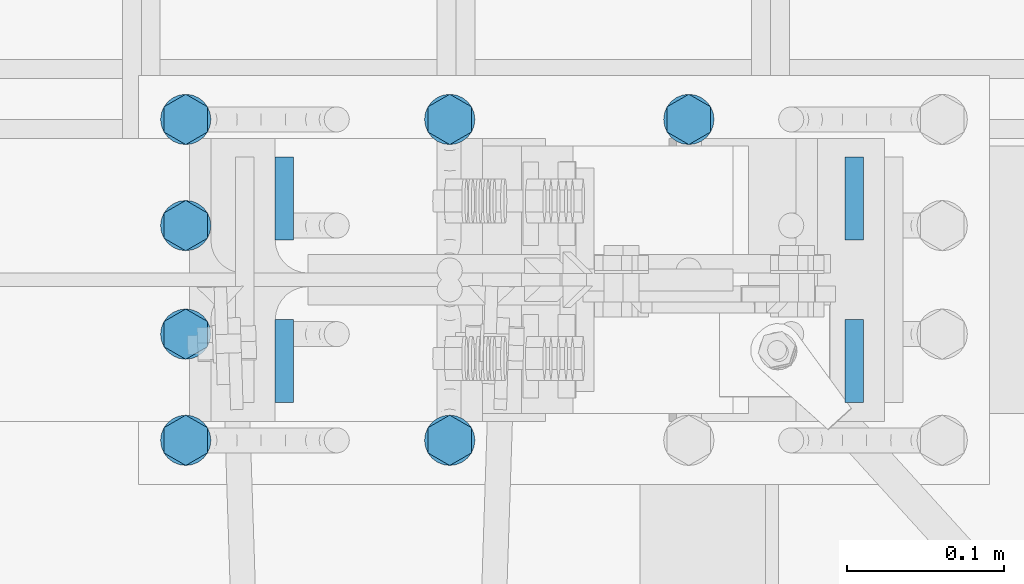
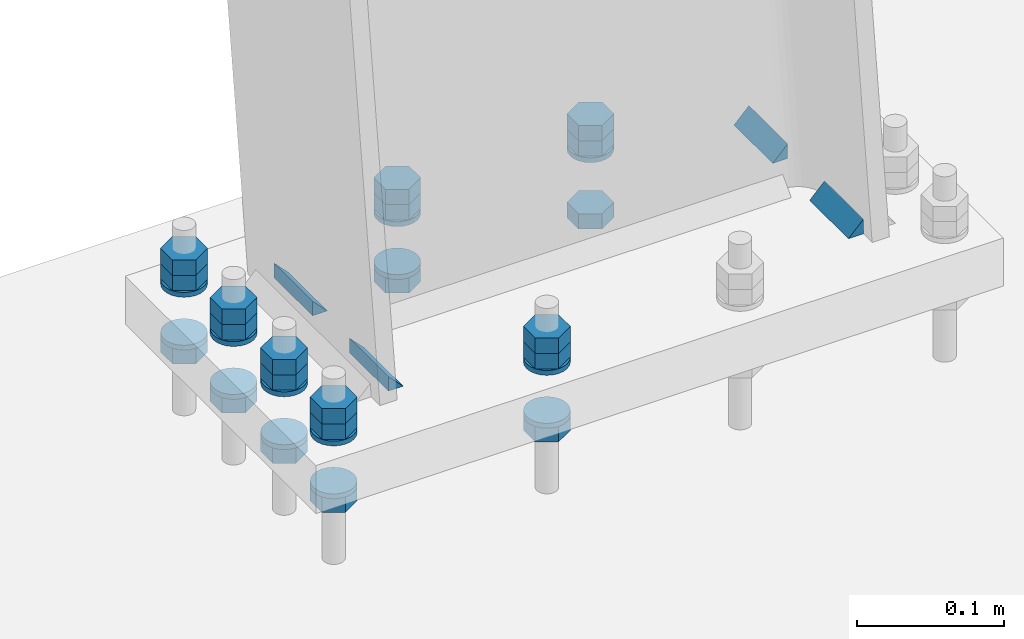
# One storey, part 65 of 72: 34 mechanical fasteners, 8 fasteners.
"""IFC4 building model written with IfcOpenShell, lengths in metres."""

from ifc_helpers import new_model, si_unit, frame, origin_with_axes, place, context, project, spatial, polyline, outline, extrude, type_object, element, save


model = new_model("IFC4")

# Units and contexts
model_context = context("Model", 3, precision=1e-05, world=origin_with_axes())
ifc_project = project(units=[si_unit("LENGTHUNIT", "METRE"), si_unit("AREAUNIT", "SQUARE_METRE"), si_unit("VOLUMEUNIT", "CUBIC_METRE"), si_unit("MASSUNIT", "GRAM", prefix="KILO"), si_unit("TIMEUNIT", "SECOND"), si_unit("PLANEANGLEUNIT", "RADIAN"), si_unit("SOLIDANGLEUNIT", "STERADIAN"), si_unit("THERMODYNAMICTEMPERATUREUNIT", "DEGREE_CELSIUS")], contexts=[model_context])

# Site, building, storey
placement_1 = place(None, origin_with_axes())
site = spatial("IfcSite", under=ifc_project, at=placement_1, Name="Italia", CompositionType="ELEMENT")
building = spatial("IfcBuilding", under=site, at=placement_1, Name="Pensilina", CompositionType="ELEMENT")
storey = spatial("IfcBuildingStorey", under=building, at=placement_1, Name="Storey 0", CompositionType="ELEMENT", Elevation=0.0)

# Fasteners
fastener_type_1 = type_object("IfcFastenerType", Name="Collegamento 0005_-200", PredefinedType="WELD")
placement_2 = place(placement_1, origin_with_axes())
fastener_1_placement = place(placement_2, origin_with_axes())
element("IfcFastener", 1, at=fastener_1_placement, inside=storey, type_object=fastener_type_1, Name="Collegamento 0005_-200", context=model_context, shape_type="SweptSolid", body=[
    extrude(outline(polyline([(0.0, 0.0, 0.0), (0.0118082, 0.0121734, 0.0), (0.0118082, 0.0, 0.0), (0.0, 0.0, 0.0)])), frame((1.10723, 21.0948, 0.103658), z_axis=(0.0, -1.0, 0.0), x_axis=(1.0, 0.0, 0.0)), (0.0, 0.0, 1.0), 0.0528011),
])
fastener_type_2 = type_object("IfcFastenerType", Name="Collegamento 0005_-200", PredefinedType="WELD")
fastener_2_placement = place(placement_2, origin_with_axes())
element("IfcFastener", 2, at=fastener_2_placement, inside=storey, type_object=fastener_type_2, Name="Collegamento 0005_-200", context=model_context, shape_type="SweptSolid", body=[
    extrude(outline(polyline([(0.0, 0.0, 0.0), (0.0118082, 0.0121734, 0.0), (0.0118082, 0.0, 0.0), (0.0, 0.0, 0.0)])), frame((0.756865, 21.042, 0.103658), z_axis=(0.0, 1.0, 0.0), x_axis=(-1.0, 0.0, 0.0)), (0.0, 0.0, 1.0), 0.0528011),
])
fastener_type_3 = type_object("IfcFastenerType", Name="Collegamento 0005_-200", PredefinedType="WELD")
fastener_3_placement = place(placement_2, origin_with_axes())
element("IfcFastener", 3, at=fastener_3_placement, inside=storey, type_object=fastener_type_3, Name="Collegamento 0005_-200", context=model_context, shape_type="SweptSolid", body=[
    extrude(outline(polyline([(0.0, 0.0, 0.0), (0.0118082, 0.0121734, 0.0), (0.0118082, 0.0, 0.0), (0.0, 0.0, 0.0)])), frame((0.756865, 21.1453, 0.103658), z_axis=(0.0, 1.0, 0.0), x_axis=(-1.0, 0.0, 0.0)), (0.0, 0.0, 1.0), 0.0528011),
])
fastener_type_4 = type_object("IfcFastenerType", Name="Collegamento 0005_-200", PredefinedType="WELD")
fastener_4_placement = place(placement_2, origin_with_axes())
element("IfcFastener", 4, at=fastener_4_placement, inside=storey, type_object=fastener_type_4, Name="Collegamento 0005_-200", context=model_context, shape_type="SweptSolid", body=[
    extrude(outline(polyline([(0.0, 0.0, 0.0), (0.0118082, 0.0121734, 0.0), (0.0118082, 0.0, 0.0), (0.0, 0.0, 0.0)])), frame((1.10723, 21.1981, 0.103658), z_axis=(0.0, -1.0, 0.0), x_axis=(1.0, 0.0, 0.0)), (0.0, 0.0, 1.0), 0.0528011),
])
fastener_type_5 = type_object("IfcFastenerType", Name="Collegamento 0005_-200", PredefinedType="WELD")
fastener_5_placement = place(placement_2, origin_with_axes())
element("IfcFastener", 5, at=fastener_5_placement, inside=storey, type_object=fastener_type_5, Name="Collegamento 0005_-200", context=model_context, shape_type="SweptSolid", body=[
    extrude(outline(polyline([(0.0, 0.0, 0.0), (0.0118082, 0.0121734, 0.0), (0.0118082, 0.0, 0.0), (0.0, 0.0, 0.0)])), frame((1.10723, 21.0948, 0.103658), z_axis=(0.0, -1.0, 0.0), x_axis=(1.0, 0.0, 0.0)), (0.0, 0.0, 1.0), 0.0528011),
])
fastener_type_6 = type_object("IfcFastenerType", Name="Collegamento 0005_-200", PredefinedType="WELD")
fastener_6_placement = place(placement_2, origin_with_axes())
element("IfcFastener", 6, at=fastener_6_placement, inside=storey, type_object=fastener_type_6, Name="Collegamento 0005_-200", context=model_context, shape_type="SweptSolid", body=[
    extrude(outline(polyline([(0.0, 0.0, 0.0), (0.0118082, 0.0121734, 0.0), (0.0118082, 0.0, 0.0), (0.0, 0.0, 0.0)])), frame((0.756865, 21.042, 0.103658), z_axis=(0.0, 1.0, 0.0), x_axis=(-1.0, 0.0, 0.0)), (0.0, 0.0, 1.0), 0.0528011),
])
fastener_type_7 = type_object("IfcFastenerType", Name="Collegamento 0005_-200", PredefinedType="WELD")
fastener_7_placement = place(placement_2, origin_with_axes())
element("IfcFastener", 7, at=fastener_7_placement, inside=storey, type_object=fastener_type_7, Name="Collegamento 0005_-200", context=model_context, shape_type="SweptSolid", body=[
    extrude(outline(polyline([(0.0, 0.0, 0.0), (0.0118082, 0.0121734, 0.0), (0.0118082, 0.0, 0.0), (0.0, 0.0, 0.0)])), frame((0.756865, 21.1453, 0.103658), z_axis=(0.0, 1.0, 0.0), x_axis=(-1.0, 0.0, 0.0)), (0.0, 0.0, 1.0), 0.0528011),
])
fastener_type_8 = type_object("IfcFastenerType", Name="Collegamento 0005_-200", PredefinedType="WELD")
fastener_8_placement = place(placement_2, origin_with_axes())
element("IfcFastener", 8, at=fastener_8_placement, inside=storey, type_object=fastener_type_8, Name="Collegamento 0005_-200", context=model_context, shape_type="SweptSolid", body=[
    extrude(outline(polyline([(0.0, 0.0, 0.0), (0.0118082, 0.0121734, 0.0), (0.0118082, 0.0, 0.0), (0.0, 0.0, 0.0)])), frame((1.10723, 21.1981, 0.103658), z_axis=(0.0, -1.0, 0.0), x_axis=(1.0, 0.0, 0.0)), (0.0, 0.0, 1.0), 0.0528011),
])

# Mechanical fasteners
mechanical_fastener_type_1 = type_object("IfcMechanicalFastenerType", Name="Collegamento 0005_-200", PredefinedType="BOLT")
mechanical_fastener_1_placement = place(placement_2, origin_with_axes())
element("IfcMechanicalFastener", 9, at=mechanical_fastener_1_placement, inside=storey, type_object=mechanical_fastener_type_1, Name="Collegamento 0005_-200", NominalDiameter=0.0159997, context=model_context, shape_type="SweptSolid", body=[
    extrude(outline(polyline([(0.0, 0.0, 0.0), (0.0160007, 0.0, 0.0), (0.0240002, -0.0138564, 0.0), (0.0160007, -0.0277128, 0.0), (0.0, -0.0277128, 0.0), (-0.00799942, -0.0138564, 0.0), (0.0, 0.0, 0.0)])), frame((0.674373, 21.214, 0.107708), z_axis=(0.0, 0.0, 1.0), x_axis=(0.0, 1.0, 0.0)), (0.0, 0.0, 1.0), 0.0128),
])
mechanical_fastener_type_2 = type_object("IfcMechanicalFastenerType", Name="Collegamento 0005_-200", PredefinedType="BOLT")
mechanical_fastener_2_placement = place(placement_2, origin_with_axes())
element("IfcMechanicalFastener", 10, at=mechanical_fastener_2_placement, inside=storey, type_object=mechanical_fastener_type_2, Name="Collegamento 0005_-200", NominalDiameter=0.0159997, context=model_context, shape_type="SweptSolid", body=[
    extrude(outline(polyline([(0.0, 0.0, 0.0), (0.0160007, 0.0, 0.0), (0.0240002, -0.0138564, 0.0), (0.0160007, -0.0277128, 0.0), (0.0, -0.0277128, 0.0), (-0.00799942, -0.0138564, 0.0), (0.0, 0.0, 0.0)])), frame((0.674373, 21.214, 0.120508), z_axis=(0.0, 0.0, 1.0), x_axis=(0.0, 1.0, 0.0)), (0.0, 0.0, 1.0), 0.0128),
])
mechanical_fastener_type_3 = type_object("IfcMechanicalFastenerType", Name="Collegamento 0005_-200", PredefinedType="BOLT")
mechanical_fastener_3_placement = place(placement_2, origin_with_axes())
element("IfcMechanicalFastener", 11, at=mechanical_fastener_3_placement, inside=storey, type_object=mechanical_fastener_type_3, Name="Collegamento 0005_-200", NominalDiameter=0.0159997, context=model_context, shape_type="SweptSolid", body=[
    extrude(outline(polyline([(0.0, 0.0, 0.0), (0.0160007, 0.0, 0.0), (0.0240002, -0.0138564, 0.0), (0.0160007, -0.0277128, 0.0), (0.0, -0.0277128, 0.0), (-0.00799942, -0.0138564, 0.0), (0.0, 0.0, 0.0)])), frame((0.674373, 21.214, 0.0469081), z_axis=(0.0, 0.0, 1.0), x_axis=(0.0, 1.0, 0.0)), (0.0, 0.0, 1.0), 0.0128),
])
mechanical_fastener_type_4 = type_object("IfcMechanicalFastenerType", Name="Collegamento 0005_-200", PredefinedType="BOLT")
mechanical_fastener_4_placement = place(placement_2, origin_with_axes())
element("IfcMechanicalFastener", 12, at=mechanical_fastener_4_placement, inside=storey, type_object=mechanical_fastener_type_4, Name="Collegamento 0005_-200", NominalDiameter=0.032, context=model_context, shape_type="SweptSolid", body=[
    extrude(outline(polyline([(0.0, 0.0, 0.0), (-0.000545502, -0.00414109, 0.0), (-0.00214386, -0.00800002, 0.0), (-0.00468636, -0.0113137, 0.0), (-0.00800133, -0.0138564, 0.0), (-0.0118599, -0.0154548, 0.0), (-0.0160007, -0.016, 0.0), (-0.0201416, -0.0154548, 0.0), (-0.0240002, -0.0138564, 0.0), (-0.0273151, -0.0113137, 0.0), (-0.0298576, -0.00800002, 0.0), (-0.031456, -0.00414109, 0.0), (-0.0320015, 0.0, 0.0), (-0.031456, 0.00414109, 0.0), (-0.0298576, 0.00800002, 0.0), (-0.0273151, 0.0113137, 0.0), (-0.0240002, 0.0138564, 0.0), (-0.0201416, 0.0154548, 0.0), (-0.0160007, 0.016, 0.0), (-0.0118599, 0.0154548, 0.0), (-0.00800133, 0.0138564, 0.0), (-0.00468636, 0.0113137, 0.0), (-0.00214386, 0.00800002, 0.0), (-0.000545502, 0.00414109, 0.0), (0.0, 0.0, 0.0)])), frame((0.68823, 21.238, 0.103708), z_axis=(0.0, 0.0, 1.0), x_axis=(0.0, 1.0, 0.0)), (0.0, 0.0, 1.0), 0.004),
])
mechanical_fastener_type_5 = type_object("IfcMechanicalFastenerType", Name="Collegamento 0005_-200", PredefinedType="BOLT")
mechanical_fastener_5_placement = place(placement_2, origin_with_axes())
element("IfcMechanicalFastener", 13, at=mechanical_fastener_5_placement, inside=storey, type_object=mechanical_fastener_type_5, Name="Collegamento 0005_-200", NominalDiameter=0.032, context=model_context, shape_type="SweptSolid", body=[
    extrude(outline(polyline([(0.0, 0.0, 0.0), (-0.000545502, -0.00414109, 0.0), (-0.00214386, -0.00800002, 0.0), (-0.00468636, -0.0113137, 0.0), (-0.00800133, -0.0138564, 0.0), (-0.0118599, -0.0154548, 0.0), (-0.0160007, -0.016, 0.0), (-0.0201416, -0.0154548, 0.0), (-0.0240002, -0.0138564, 0.0), (-0.0273151, -0.0113137, 0.0), (-0.0298576, -0.00800002, 0.0), (-0.031456, -0.00414109, 0.0), (-0.0320015, 0.0, 0.0), (-0.031456, 0.00414109, 0.0), (-0.0298576, 0.00800002, 0.0), (-0.0273151, 0.0113137, 0.0), (-0.0240002, 0.0138564, 0.0), (-0.0201416, 0.0154548, 0.0), (-0.0160007, 0.016, 0.0), (-0.0118599, 0.0154548, 0.0), (-0.00800133, 0.0138564, 0.0), (-0.00468636, 0.0113137, 0.0), (-0.00214386, 0.00800002, 0.0), (-0.000545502, 0.00414109, 0.0), (0.0, 0.0, 0.0)])), frame((0.68823, 21.238, 0.0597081), z_axis=(0.0, 0.0, 1.0), x_axis=(0.0, 1.0, 0.0)), (0.0, 0.0, 1.0), 0.004),
])
mechanical_fastener_type_6 = type_object("IfcMechanicalFastenerType", Name="Collegamento 0005_-200", PredefinedType="BOLT")
mechanical_fastener_6_placement = place(placement_2, origin_with_axes())
element("IfcMechanicalFastener", 14, at=mechanical_fastener_6_placement, inside=storey, type_object=mechanical_fastener_type_6, Name="Collegamento 0005_-200", NominalDiameter=0.0159988, context=model_context, shape_type="SweptSolid", body=[
    extrude(outline(polyline([(0.0, 0.0, 0.0), (0.0159988, 0.0, 0.0), (0.0240002, -0.0138564, 0.0), (0.0159988, -0.0277128, 0.0), (0.0, -0.0277128, 0.0), (-0.00800133, -0.0138564, 0.0), (0.0, 0.0, 0.0)])), frame((0.674373, 21.1465, 0.107708), z_axis=(0.0, 0.0, 1.0), x_axis=(0.0, 1.0, 0.0)), (0.0, 0.0, 1.0), 0.0128),
])
mechanical_fastener_type_7 = type_object("IfcMechanicalFastenerType", Name="Collegamento 0005_-200", PredefinedType="BOLT")
mechanical_fastener_7_placement = place(placement_2, origin_with_axes())
element("IfcMechanicalFastener", 15, at=mechanical_fastener_7_placement, inside=storey, type_object=mechanical_fastener_type_7, Name="Collegamento 0005_-200", NominalDiameter=0.0159988, context=model_context, shape_type="SweptSolid", body=[
    extrude(outline(polyline([(0.0, 0.0, 0.0), (0.0159988, 0.0, 0.0), (0.0240002, -0.0138564, 0.0), (0.0159988, -0.0277128, 0.0), (0.0, -0.0277128, 0.0), (-0.00800133, -0.0138564, 0.0), (0.0, 0.0, 0.0)])), frame((0.674373, 21.1465, 0.120508), z_axis=(0.0, 0.0, 1.0), x_axis=(0.0, 1.0, 0.0)), (0.0, 0.0, 1.0), 0.0128),
])
mechanical_fastener_type_8 = type_object("IfcMechanicalFastenerType", Name="Collegamento 0005_-200", PredefinedType="BOLT")
mechanical_fastener_8_placement = place(placement_2, origin_with_axes())
element("IfcMechanicalFastener", 16, at=mechanical_fastener_8_placement, inside=storey, type_object=mechanical_fastener_type_8, Name="Collegamento 0005_-200", NominalDiameter=0.0159988, context=model_context, shape_type="SweptSolid", body=[
    extrude(outline(polyline([(0.0, 0.0, 0.0), (0.0159988, 0.0, 0.0), (0.0240002, -0.0138564, 0.0), (0.0159988, -0.0277128, 0.0), (0.0, -0.0277128, 0.0), (-0.00800133, -0.0138564, 0.0), (0.0, 0.0, 0.0)])), frame((0.674373, 21.1465, 0.0469081), z_axis=(0.0, 0.0, 1.0), x_axis=(0.0, 1.0, 0.0)), (0.0, 0.0, 1.0), 0.0128),
])
mechanical_fastener_type_9 = type_object("IfcMechanicalFastenerType", Name="Collegamento 0005_-200", PredefinedType="BOLT")
mechanical_fastener_9_placement = place(placement_2, origin_with_axes())
element("IfcMechanicalFastener", 17, at=mechanical_fastener_9_placement, inside=storey, type_object=mechanical_fastener_type_9, Name="Collegamento 0005_-200", NominalDiameter=0.032, context=model_context, shape_type="SweptSolid", body=[
    extrude(outline(polyline([(0.0, 0.0, 0.0), (-0.000545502, -0.00414109, 0.0), (-0.00214386, -0.00800002, 0.0), (-0.00468636, -0.0113137, 0.0), (-0.00800133, -0.0138564, 0.0), (-0.0118599, -0.0154548, 0.0), (-0.0160007, -0.016, 0.0), (-0.0201416, -0.0154548, 0.0), (-0.0240002, -0.0138564, 0.0), (-0.0273151, -0.0113137, 0.0), (-0.0298576, -0.00800002, 0.0), (-0.031456, -0.00414109, 0.0), (-0.0320015, 0.0, 0.0), (-0.031456, 0.00414109, 0.0), (-0.0298576, 0.00800002, 0.0), (-0.0273151, 0.0113137, 0.0), (-0.0240002, 0.0138564, 0.0), (-0.0201416, 0.0154548, 0.0), (-0.0160007, 0.016, 0.0), (-0.0118599, 0.0154548, 0.0), (-0.00800133, 0.0138564, 0.0), (-0.00468636, 0.0113137, 0.0), (-0.00214386, 0.00800002, 0.0), (-0.000545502, 0.00414109, 0.0), (0.0, 0.0, 0.0)])), frame((0.68823, 21.1705, 0.103708), z_axis=(0.0, 0.0, 1.0), x_axis=(0.0, 1.0, 0.0)), (0.0, 0.0, 1.0), 0.004),
])
mechanical_fastener_type_10 = type_object("IfcMechanicalFastenerType", Name="Collegamento 0005_-200", PredefinedType="BOLT")
mechanical_fastener_10_placement = place(placement_2, origin_with_axes())
element("IfcMechanicalFastener", 18, at=mechanical_fastener_10_placement, inside=storey, type_object=mechanical_fastener_type_10, Name="Collegamento 0005_-200", NominalDiameter=0.032, context=model_context, shape_type="SweptSolid", body=[
    extrude(outline(polyline([(0.0, 0.0, 0.0), (-0.000545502, -0.00414109, 0.0), (-0.00214386, -0.00800002, 0.0), (-0.00468636, -0.0113137, 0.0), (-0.00800133, -0.0138564, 0.0), (-0.0118599, -0.0154548, 0.0), (-0.0160007, -0.016, 0.0), (-0.0201416, -0.0154548, 0.0), (-0.0240002, -0.0138564, 0.0), (-0.0273151, -0.0113137, 0.0), (-0.0298576, -0.00800002, 0.0), (-0.031456, -0.00414109, 0.0), (-0.0320015, 0.0, 0.0), (-0.031456, 0.00414109, 0.0), (-0.0298576, 0.00800002, 0.0), (-0.0273151, 0.0113137, 0.0), (-0.0240002, 0.0138564, 0.0), (-0.0201416, 0.0154548, 0.0), (-0.0160007, 0.016, 0.0), (-0.0118599, 0.0154548, 0.0), (-0.00800133, 0.0138564, 0.0), (-0.00468636, 0.0113137, 0.0), (-0.00214386, 0.00800002, 0.0), (-0.000545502, 0.00414109, 0.0), (0.0, 0.0, 0.0)])), frame((0.68823, 21.1705, 0.0597081), z_axis=(0.0, 0.0, 1.0), x_axis=(0.0, 1.0, 0.0)), (0.0, 0.0, 1.0), 0.004),
])
mechanical_fastener_type_11 = type_object("IfcMechanicalFastenerType", Name="Collegamento 0005_-200", PredefinedType="BOLT")
mechanical_fastener_11_placement = place(placement_2, origin_with_axes())
element("IfcMechanicalFastener", 19, at=mechanical_fastener_11_placement, inside=storey, type_object=mechanical_fastener_type_11, Name="Collegamento 0005_-200", NominalDiameter=0.0159988, context=model_context, shape_type="SweptSolid", body=[
    extrude(outline(polyline([(0.0, 0.0, 0.0), (0.0159988, 0.0, 0.0), (0.0240002, -0.0138564, 0.0), (0.0159988, -0.0277128, 0.0), (0.0, -0.0277128, 0.0), (-0.00800133, -0.0138564, 0.0), (0.0, 0.0, 0.0)])), frame((0.674373, 21.0775, 0.107708), z_axis=(0.0, 0.0, 1.0), x_axis=(0.0, 1.0, 0.0)), (0.0, 0.0, 1.0), 0.0128),
])
mechanical_fastener_type_12 = type_object("IfcMechanicalFastenerType", Name="Collegamento 0005_-200", PredefinedType="BOLT")
mechanical_fastener_12_placement = place(placement_2, origin_with_axes())
element("IfcMechanicalFastener", 20, at=mechanical_fastener_12_placement, inside=storey, type_object=mechanical_fastener_type_12, Name="Collegamento 0005_-200", NominalDiameter=0.0159988, context=model_context, shape_type="SweptSolid", body=[
    extrude(outline(polyline([(0.0, 0.0, 0.0), (0.0159988, 0.0, 0.0), (0.0240002, -0.0138564, 0.0), (0.0159988, -0.0277128, 0.0), (0.0, -0.0277128, 0.0), (-0.00800133, -0.0138564, 0.0), (0.0, 0.0, 0.0)])), frame((0.674373, 21.0775, 0.120508), z_axis=(0.0, 0.0, 1.0), x_axis=(0.0, 1.0, 0.0)), (0.0, 0.0, 1.0), 0.0128),
])
mechanical_fastener_type_13 = type_object("IfcMechanicalFastenerType", Name="Collegamento 0005_-200", PredefinedType="BOLT")
mechanical_fastener_13_placement = place(placement_2, origin_with_axes())
element("IfcMechanicalFastener", 21, at=mechanical_fastener_13_placement, inside=storey, type_object=mechanical_fastener_type_13, Name="Collegamento 0005_-200", NominalDiameter=0.0159988, context=model_context, shape_type="SweptSolid", body=[
    extrude(outline(polyline([(0.0, 0.0, 0.0), (0.0159988, 0.0, 0.0), (0.0240002, -0.0138564, 0.0), (0.0159988, -0.0277128, 0.0), (0.0, -0.0277128, 0.0), (-0.00800133, -0.0138564, 0.0), (0.0, 0.0, 0.0)])), frame((0.674373, 21.0775, 0.0469081), z_axis=(0.0, 0.0, 1.0), x_axis=(0.0, 1.0, 0.0)), (0.0, 0.0, 1.0), 0.0128),
])
mechanical_fastener_type_14 = type_object("IfcMechanicalFastenerType", Name="Collegamento 0005_-200", PredefinedType="BOLT")
mechanical_fastener_14_placement = place(placement_2, origin_with_axes())
element("IfcMechanicalFastener", 22, at=mechanical_fastener_14_placement, inside=storey, type_object=mechanical_fastener_type_14, Name="Collegamento 0005_-200", NominalDiameter=0.032, context=model_context, shape_type="SweptSolid", body=[
    extrude(outline(polyline([(0.0, 0.0, 0.0), (-0.000545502, -0.00414109, 0.0), (-0.00214386, -0.00800002, 0.0), (-0.00468636, -0.0113137, 0.0), (-0.00800133, -0.0138564, 0.0), (-0.0118599, -0.0154548, 0.0), (-0.0160007, -0.016, 0.0), (-0.0201416, -0.0154548, 0.0), (-0.0240002, -0.0138564, 0.0), (-0.0273151, -0.0113137, 0.0), (-0.0298576, -0.00800002, 0.0), (-0.031456, -0.00414109, 0.0), (-0.0320015, 0.0, 0.0), (-0.031456, 0.00414109, 0.0), (-0.0298576, 0.00800002, 0.0), (-0.0273151, 0.0113137, 0.0), (-0.0240002, 0.0138564, 0.0), (-0.0201416, 0.0154548, 0.0), (-0.0160007, 0.016, 0.0), (-0.0118599, 0.0154548, 0.0), (-0.00800133, 0.0138564, 0.0), (-0.00468636, 0.0113137, 0.0), (-0.00214386, 0.00800002, 0.0), (-0.000545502, 0.00414109, 0.0), (0.0, 0.0, 0.0)])), frame((0.68823, 21.1015, 0.103708), z_axis=(0.0, 0.0, 1.0), x_axis=(0.0, 1.0, 0.0)), (0.0, 0.0, 1.0), 0.004),
])
mechanical_fastener_type_15 = type_object("IfcMechanicalFastenerType", Name="Collegamento 0005_-200", PredefinedType="BOLT")
mechanical_fastener_15_placement = place(placement_2, origin_with_axes())
element("IfcMechanicalFastener", 23, at=mechanical_fastener_15_placement, inside=storey, type_object=mechanical_fastener_type_15, Name="Collegamento 0005_-200", NominalDiameter=0.032, context=model_context, shape_type="SweptSolid", body=[
    extrude(outline(polyline([(0.0, 0.0, 0.0), (-0.000545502, -0.00414109, 0.0), (-0.00214386, -0.00800002, 0.0), (-0.00468636, -0.0113137, 0.0), (-0.00800133, -0.0138564, 0.0), (-0.0118599, -0.0154548, 0.0), (-0.0160007, -0.016, 0.0), (-0.0201416, -0.0154548, 0.0), (-0.0240002, -0.0138564, 0.0), (-0.0273151, -0.0113137, 0.0), (-0.0298576, -0.00800002, 0.0), (-0.031456, -0.00414109, 0.0), (-0.0320015, 0.0, 0.0), (-0.031456, 0.00414109, 0.0), (-0.0298576, 0.00800002, 0.0), (-0.0273151, 0.0113137, 0.0), (-0.0240002, 0.0138564, 0.0), (-0.0201416, 0.0154548, 0.0), (-0.0160007, 0.016, 0.0), (-0.0118599, 0.0154548, 0.0), (-0.00800133, 0.0138564, 0.0), (-0.00468636, 0.0113137, 0.0), (-0.00214386, 0.00800002, 0.0), (-0.000545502, 0.00414109, 0.0), (0.0, 0.0, 0.0)])), frame((0.68823, 21.1015, 0.0597081), z_axis=(0.0, 0.0, 1.0), x_axis=(0.0, 1.0, 0.0)), (0.0, 0.0, 1.0), 0.004),
])
mechanical_fastener_type_16 = type_object("IfcMechanicalFastenerType", Name="Collegamento 0005_-200", PredefinedType="BOLT")
mechanical_fastener_16_placement = place(placement_2, origin_with_axes())
element("IfcMechanicalFastener", 24, at=mechanical_fastener_16_placement, inside=storey, type_object=mechanical_fastener_type_16, Name="Collegamento 0005_-200", NominalDiameter=0.0159997, context=model_context, shape_type="SweptSolid", body=[
    extrude(outline(polyline([(0.0, 0.0, 0.0), (0.0160007, 0.0, 0.0), (0.0240002, -0.0138564, 0.0), (0.0160007, -0.0277128, 0.0), (0.0, -0.0277128, 0.0), (-0.00799942, -0.0138564, 0.0), (0.0, 0.0, 0.0)])), frame((0.674373, 21.01, 0.107708), z_axis=(0.0, 0.0, 1.0), x_axis=(0.0, 1.0, 0.0)), (0.0, 0.0, 1.0), 0.0128),
])
mechanical_fastener_type_17 = type_object("IfcMechanicalFastenerType", Name="Collegamento 0005_-200", PredefinedType="BOLT")
mechanical_fastener_17_placement = place(placement_2, origin_with_axes())
element("IfcMechanicalFastener", 25, at=mechanical_fastener_17_placement, inside=storey, type_object=mechanical_fastener_type_17, Name="Collegamento 0005_-200", NominalDiameter=0.0159997, context=model_context, shape_type="SweptSolid", body=[
    extrude(outline(polyline([(0.0, 0.0, 0.0), (0.0160007, 0.0, 0.0), (0.0240002, -0.0138564, 0.0), (0.0160007, -0.0277128, 0.0), (0.0, -0.0277128, 0.0), (-0.00799942, -0.0138564, 0.0), (0.0, 0.0, 0.0)])), frame((0.674373, 21.01, 0.120508), z_axis=(0.0, 0.0, 1.0), x_axis=(0.0, 1.0, 0.0)), (0.0, 0.0, 1.0), 0.0128),
])
mechanical_fastener_type_18 = type_object("IfcMechanicalFastenerType", Name="Collegamento 0005_-200", PredefinedType="BOLT")
mechanical_fastener_18_placement = place(placement_2, origin_with_axes())
element("IfcMechanicalFastener", 26, at=mechanical_fastener_18_placement, inside=storey, type_object=mechanical_fastener_type_18, Name="Collegamento 0005_-200", NominalDiameter=0.0159997, context=model_context, shape_type="SweptSolid", body=[
    extrude(outline(polyline([(0.0, 0.0, 0.0), (0.0160007, 0.0, 0.0), (0.0240002, -0.0138564, 0.0), (0.0160007, -0.0277128, 0.0), (0.0, -0.0277128, 0.0), (-0.00799942, -0.0138564, 0.0), (0.0, 0.0, 0.0)])), frame((0.674373, 21.01, 0.0469081), z_axis=(0.0, 0.0, 1.0), x_axis=(0.0, 1.0, 0.0)), (0.0, 0.0, 1.0), 0.0128),
])
mechanical_fastener_type_19 = type_object("IfcMechanicalFastenerType", Name="Collegamento 0005_-200", PredefinedType="BOLT")
mechanical_fastener_19_placement = place(placement_2, origin_with_axes())
element("IfcMechanicalFastener", 27, at=mechanical_fastener_19_placement, inside=storey, type_object=mechanical_fastener_type_19, Name="Collegamento 0005_-200", NominalDiameter=0.032, context=model_context, shape_type="SweptSolid", body=[
    extrude(outline(polyline([(0.0, 0.0, 0.0), (-0.000545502, -0.00414109, 0.0), (-0.00214386, -0.00800002, 0.0), (-0.00468636, -0.0113137, 0.0), (-0.00800133, -0.0138564, 0.0), (-0.0118599, -0.0154548, 0.0), (-0.0160007, -0.016, 0.0), (-0.0201416, -0.0154548, 0.0), (-0.0240002, -0.0138564, 0.0), (-0.0273151, -0.0113137, 0.0), (-0.0298576, -0.00800002, 0.0), (-0.031456, -0.00414109, 0.0), (-0.0320015, 0.0, 0.0), (-0.031456, 0.00414109, 0.0), (-0.0298576, 0.00800002, 0.0), (-0.0273151, 0.0113137, 0.0), (-0.0240002, 0.0138564, 0.0), (-0.0201416, 0.0154548, 0.0), (-0.0160007, 0.016, 0.0), (-0.0118599, 0.0154548, 0.0), (-0.00800133, 0.0138564, 0.0), (-0.00468636, 0.0113137, 0.0), (-0.00214386, 0.00800002, 0.0), (-0.000545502, 0.00414109, 0.0), (0.0, 0.0, 0.0)])), frame((0.68823, 21.034, 0.103708), z_axis=(0.0, 0.0, 1.0), x_axis=(0.0, 1.0, 0.0)), (0.0, 0.0, 1.0), 0.004),
])
mechanical_fastener_type_20 = type_object("IfcMechanicalFastenerType", Name="Collegamento 0005_-200", PredefinedType="BOLT")
mechanical_fastener_20_placement = place(placement_2, origin_with_axes())
element("IfcMechanicalFastener", 28, at=mechanical_fastener_20_placement, inside=storey, type_object=mechanical_fastener_type_20, Name="Collegamento 0005_-200", NominalDiameter=0.032, context=model_context, shape_type="SweptSolid", body=[
    extrude(outline(polyline([(0.0, 0.0, 0.0), (-0.000545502, -0.00414109, 0.0), (-0.00214386, -0.00800002, 0.0), (-0.00468636, -0.0113137, 0.0), (-0.00800133, -0.0138564, 0.0), (-0.0118599, -0.0154548, 0.0), (-0.0160007, -0.016, 0.0), (-0.0201416, -0.0154548, 0.0), (-0.0240002, -0.0138564, 0.0), (-0.0273151, -0.0113137, 0.0), (-0.0298576, -0.00800002, 0.0), (-0.031456, -0.00414109, 0.0), (-0.0320015, 0.0, 0.0), (-0.031456, 0.00414109, 0.0), (-0.0298576, 0.00800002, 0.0), (-0.0273151, 0.0113137, 0.0), (-0.0240002, 0.0138564, 0.0), (-0.0201416, 0.0154548, 0.0), (-0.0160007, 0.016, 0.0), (-0.0118599, 0.0154548, 0.0), (-0.00800133, 0.0138564, 0.0), (-0.00468636, 0.0113137, 0.0), (-0.00214386, 0.00800002, 0.0), (-0.000545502, 0.00414109, 0.0), (0.0, 0.0, 0.0)])), frame((0.68823, 21.034, 0.0597081), z_axis=(0.0, 0.0, 1.0), x_axis=(0.0, 1.0, 0.0)), (0.0, 0.0, 1.0), 0.004),
])
mechanical_fastener_type_21 = type_object("IfcMechanicalFastenerType", Name="Collegamento 0005_-200", PredefinedType="BOLT")
mechanical_fastener_21_placement = place(placement_2, origin_with_axes())
element("IfcMechanicalFastener", 29, at=mechanical_fastener_21_placement, inside=storey, type_object=mechanical_fastener_type_21, Name="Collegamento 0005_-200", NominalDiameter=0.0159997, context=model_context, shape_type="SweptSolid", body=[
    extrude(outline(polyline([(0.0, 0.0, 0.0), (0.0160007, 0.0, 0.0), (0.0240002, -0.0138564, 0.0), (0.0160007, -0.0277128, 0.0), (0.0, -0.0277128, 0.0), (-0.00799942, -0.0138564, 0.0), (0.0, 0.0, 0.0)])), frame((0.84219, 21.214, 0.107708), z_axis=(0.0, 0.0, 1.0), x_axis=(0.0, 1.0, 0.0)), (0.0, 0.0, 1.0), 0.0128),
])
mechanical_fastener_type_22 = type_object("IfcMechanicalFastenerType", Name="Collegamento 0005_-200", PredefinedType="BOLT")
mechanical_fastener_22_placement = place(placement_2, origin_with_axes())
element("IfcMechanicalFastener", 30, at=mechanical_fastener_22_placement, inside=storey, type_object=mechanical_fastener_type_22, Name="Collegamento 0005_-200", NominalDiameter=0.0159997, context=model_context, shape_type="SweptSolid", body=[
    extrude(outline(polyline([(0.0, 0.0, 0.0), (0.0160007, 0.0, 0.0), (0.0240002, -0.0138564, 0.0), (0.0160007, -0.0277128, 0.0), (0.0, -0.0277128, 0.0), (-0.00799942, -0.0138564, 0.0), (0.0, 0.0, 0.0)])), frame((0.84219, 21.214, 0.120508), z_axis=(0.0, 0.0, 1.0), x_axis=(0.0, 1.0, 0.0)), (0.0, 0.0, 1.0), 0.0128),
])
mechanical_fastener_type_23 = type_object("IfcMechanicalFastenerType", Name="Collegamento 0005_-200", PredefinedType="BOLT")
mechanical_fastener_23_placement = place(placement_2, origin_with_axes())
element("IfcMechanicalFastener", 31, at=mechanical_fastener_23_placement, inside=storey, type_object=mechanical_fastener_type_23, Name="Collegamento 0005_-200", NominalDiameter=0.0159997, context=model_context, shape_type="SweptSolid", body=[
    extrude(outline(polyline([(0.0, 0.0, 0.0), (0.0160007, 0.0, 0.0), (0.0240002, -0.0138564, 0.0), (0.0160007, -0.0277128, 0.0), (0.0, -0.0277128, 0.0), (-0.00799942, -0.0138564, 0.0), (0.0, 0.0, 0.0)])), frame((0.84219, 21.214, 0.0469081), z_axis=(0.0, 0.0, 1.0), x_axis=(0.0, 1.0, 0.0)), (0.0, 0.0, 1.0), 0.0128),
])
mechanical_fastener_type_24 = type_object("IfcMechanicalFastenerType", Name="Collegamento 0005_-200", PredefinedType="BOLT")
mechanical_fastener_24_placement = place(placement_2, origin_with_axes())
element("IfcMechanicalFastener", 32, at=mechanical_fastener_24_placement, inside=storey, type_object=mechanical_fastener_type_24, Name="Collegamento 0005_-200", NominalDiameter=0.032, context=model_context, shape_type="SweptSolid", body=[
    extrude(outline(polyline([(0.0, 0.0, 0.0), (-0.000545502, -0.00414109, 0.0), (-0.00214386, -0.00800002, 0.0), (-0.00468636, -0.0113137, 0.0), (-0.00800133, -0.0138564, 0.0), (-0.0118599, -0.0154548, 0.0), (-0.0160007, -0.016, 0.0), (-0.0201416, -0.0154548, 0.0), (-0.0240002, -0.0138564, 0.0), (-0.0273151, -0.0113137, 0.0), (-0.0298576, -0.00800002, 0.0), (-0.031456, -0.00414109, 0.0), (-0.0320015, 0.0, 0.0), (-0.031456, 0.00414109, 0.0), (-0.0298576, 0.00800002, 0.0), (-0.0273151, 0.0113137, 0.0), (-0.0240002, 0.0138564, 0.0), (-0.0201416, 0.0154548, 0.0), (-0.0160007, 0.016, 0.0), (-0.0118599, 0.0154548, 0.0), (-0.00800133, 0.0138564, 0.0), (-0.00468636, 0.0113137, 0.0), (-0.00214386, 0.00800002, 0.0), (-0.000545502, 0.00414109, 0.0), (0.0, 0.0, 0.0)])), frame((0.856047, 21.238, 0.103708), z_axis=(0.0, 0.0, 1.0), x_axis=(0.0, 1.0, 0.0)), (0.0, 0.0, 1.0), 0.004),
])
mechanical_fastener_type_25 = type_object("IfcMechanicalFastenerType", Name="Collegamento 0005_-200", PredefinedType="BOLT")
mechanical_fastener_25_placement = place(placement_2, origin_with_axes())
element("IfcMechanicalFastener", 33, at=mechanical_fastener_25_placement, inside=storey, type_object=mechanical_fastener_type_25, Name="Collegamento 0005_-200", NominalDiameter=0.032, context=model_context, shape_type="SweptSolid", body=[
    extrude(outline(polyline([(0.0, 0.0, 0.0), (-0.000545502, -0.00414109, 0.0), (-0.00214386, -0.00800002, 0.0), (-0.00468636, -0.0113137, 0.0), (-0.00800133, -0.0138564, 0.0), (-0.0118599, -0.0154548, 0.0), (-0.0160007, -0.016, 0.0), (-0.0201416, -0.0154548, 0.0), (-0.0240002, -0.0138564, 0.0), (-0.0273151, -0.0113137, 0.0), (-0.0298576, -0.00800002, 0.0), (-0.031456, -0.00414109, 0.0), (-0.0320015, 0.0, 0.0), (-0.031456, 0.00414109, 0.0), (-0.0298576, 0.00800002, 0.0), (-0.0273151, 0.0113137, 0.0), (-0.0240002, 0.0138564, 0.0), (-0.0201416, 0.0154548, 0.0), (-0.0160007, 0.016, 0.0), (-0.0118599, 0.0154548, 0.0), (-0.00800133, 0.0138564, 0.0), (-0.00468636, 0.0113137, 0.0), (-0.00214386, 0.00800002, 0.0), (-0.000545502, 0.00414109, 0.0), (0.0, 0.0, 0.0)])), frame((0.856047, 21.238, 0.0597081), z_axis=(0.0, 0.0, 1.0), x_axis=(0.0, 1.0, 0.0)), (0.0, 0.0, 1.0), 0.004),
])
mechanical_fastener_type_26 = type_object("IfcMechanicalFastenerType", Name="Collegamento 0005_-200", PredefinedType="BOLT")
mechanical_fastener_26_placement = place(placement_2, origin_with_axes())
element("IfcMechanicalFastener", 34, at=mechanical_fastener_26_placement, inside=storey, type_object=mechanical_fastener_type_26, Name="Collegamento 0005_-200", NominalDiameter=0.0159997, context=model_context, shape_type="SweptSolid", body=[
    extrude(outline(polyline([(0.0, 0.0, 0.0), (0.0160007, 0.0, 0.0), (0.0240002, -0.0138564, 0.0), (0.0160007, -0.0277128, 0.0), (0.0, -0.0277128, 0.0), (-0.00799942, -0.0138564, 0.0), (0.0, 0.0, 0.0)])), frame((0.84219, 21.01, 0.107708), z_axis=(0.0, 0.0, 1.0), x_axis=(0.0, 1.0, 0.0)), (0.0, 0.0, 1.0), 0.0128),
])
mechanical_fastener_type_27 = type_object("IfcMechanicalFastenerType", Name="Collegamento 0005_-200", PredefinedType="BOLT")
mechanical_fastener_27_placement = place(placement_2, origin_with_axes())
element("IfcMechanicalFastener", 35, at=mechanical_fastener_27_placement, inside=storey, type_object=mechanical_fastener_type_27, Name="Collegamento 0005_-200", NominalDiameter=0.0159997, context=model_context, shape_type="SweptSolid", body=[
    extrude(outline(polyline([(0.0, 0.0, 0.0), (0.0160007, 0.0, 0.0), (0.0240002, -0.0138564, 0.0), (0.0160007, -0.0277128, 0.0), (0.0, -0.0277128, 0.0), (-0.00799942, -0.0138564, 0.0), (0.0, 0.0, 0.0)])), frame((0.84219, 21.01, 0.120508), z_axis=(0.0, 0.0, 1.0), x_axis=(0.0, 1.0, 0.0)), (0.0, 0.0, 1.0), 0.0128),
])
mechanical_fastener_type_28 = type_object("IfcMechanicalFastenerType", Name="Collegamento 0005_-200", PredefinedType="BOLT")
mechanical_fastener_28_placement = place(placement_2, origin_with_axes())
element("IfcMechanicalFastener", 36, at=mechanical_fastener_28_placement, inside=storey, type_object=mechanical_fastener_type_28, Name="Collegamento 0005_-200", NominalDiameter=0.0159997, context=model_context, shape_type="SweptSolid", body=[
    extrude(outline(polyline([(0.0, 0.0, 0.0), (0.0160007, 0.0, 0.0), (0.0240002, -0.0138564, 0.0), (0.0160007, -0.0277128, 0.0), (0.0, -0.0277128, 0.0), (-0.00799942, -0.0138564, 0.0), (0.0, 0.0, 0.0)])), frame((0.84219, 21.01, 0.0469081), z_axis=(0.0, 0.0, 1.0), x_axis=(0.0, 1.0, 0.0)), (0.0, 0.0, 1.0), 0.0128),
])
mechanical_fastener_type_29 = type_object("IfcMechanicalFastenerType", Name="Collegamento 0005_-200", PredefinedType="BOLT")
mechanical_fastener_29_placement = place(placement_2, origin_with_axes())
element("IfcMechanicalFastener", 37, at=mechanical_fastener_29_placement, inside=storey, type_object=mechanical_fastener_type_29, Name="Collegamento 0005_-200", NominalDiameter=0.032, context=model_context, shape_type="SweptSolid", body=[
    extrude(outline(polyline([(0.0, 0.0, 0.0), (-0.000545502, -0.00414109, 0.0), (-0.00214386, -0.00800002, 0.0), (-0.00468636, -0.0113137, 0.0), (-0.00800133, -0.0138564, 0.0), (-0.0118599, -0.0154548, 0.0), (-0.0160007, -0.016, 0.0), (-0.0201416, -0.0154548, 0.0), (-0.0240002, -0.0138564, 0.0), (-0.0273151, -0.0113137, 0.0), (-0.0298576, -0.00800002, 0.0), (-0.031456, -0.00414109, 0.0), (-0.0320015, 0.0, 0.0), (-0.031456, 0.00414109, 0.0), (-0.0298576, 0.00800002, 0.0), (-0.0273151, 0.0113137, 0.0), (-0.0240002, 0.0138564, 0.0), (-0.0201416, 0.0154548, 0.0), (-0.0160007, 0.016, 0.0), (-0.0118599, 0.0154548, 0.0), (-0.00800133, 0.0138564, 0.0), (-0.00468636, 0.0113137, 0.0), (-0.00214386, 0.00800002, 0.0), (-0.000545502, 0.00414109, 0.0), (0.0, 0.0, 0.0)])), frame((0.856047, 21.034, 0.103708), z_axis=(0.0, 0.0, 1.0), x_axis=(0.0, 1.0, 0.0)), (0.0, 0.0, 1.0), 0.004),
])
mechanical_fastener_type_30 = type_object("IfcMechanicalFastenerType", Name="Collegamento 0005_-200", PredefinedType="BOLT")
mechanical_fastener_30_placement = place(placement_2, origin_with_axes())
element("IfcMechanicalFastener", 38, at=mechanical_fastener_30_placement, inside=storey, type_object=mechanical_fastener_type_30, Name="Collegamento 0005_-200", NominalDiameter=0.032, context=model_context, shape_type="SweptSolid", body=[
    extrude(outline(polyline([(0.0, 0.0, 0.0), (-0.000545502, -0.00414109, 0.0), (-0.00214386, -0.00800002, 0.0), (-0.00468636, -0.0113137, 0.0), (-0.00800133, -0.0138564, 0.0), (-0.0118599, -0.0154548, 0.0), (-0.0160007, -0.016, 0.0), (-0.0201416, -0.0154548, 0.0), (-0.0240002, -0.0138564, 0.0), (-0.0273151, -0.0113137, 0.0), (-0.0298576, -0.00800002, 0.0), (-0.031456, -0.00414109, 0.0), (-0.0320015, 0.0, 0.0), (-0.031456, 0.00414109, 0.0), (-0.0298576, 0.00800002, 0.0), (-0.0273151, 0.0113137, 0.0), (-0.0240002, 0.0138564, 0.0), (-0.0201416, 0.0154548, 0.0), (-0.0160007, 0.016, 0.0), (-0.0118599, 0.0154548, 0.0), (-0.00800133, 0.0138564, 0.0), (-0.00468636, 0.0113137, 0.0), (-0.00214386, 0.00800002, 0.0), (-0.000545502, 0.00414109, 0.0), (0.0, 0.0, 0.0)])), frame((0.856047, 21.034, 0.0597081), z_axis=(0.0, 0.0, 1.0), x_axis=(0.0, 1.0, 0.0)), (0.0, 0.0, 1.0), 0.004),
])
mechanical_fastener_type_31 = type_object("IfcMechanicalFastenerType", Name="Collegamento 0005_-200", PredefinedType="BOLT")
mechanical_fastener_31_placement = place(placement_2, origin_with_axes())
element("IfcMechanicalFastener", 39, at=mechanical_fastener_31_placement, inside=storey, type_object=mechanical_fastener_type_31, Name="Collegamento 0005_-200", NominalDiameter=0.0159997, context=model_context, shape_type="SweptSolid", body=[
    extrude(outline(polyline([(0.0, 0.0, 0.0), (0.0160007, 0.0, 0.0), (0.0240002, -0.0138565, 0.0), (0.0160007, -0.0277129, 0.0), (0.0, -0.0277129, 0.0), (-0.00799942, -0.0138565, 0.0), (0.0, 0.0, 0.0)])), frame((0.99419, 21.214, 0.107708), z_axis=(0.0, 0.0, 1.0), x_axis=(0.0, 1.0, 0.0)), (0.0, 0.0, 1.0), 0.0128),
])
mechanical_fastener_type_32 = type_object("IfcMechanicalFastenerType", Name="Collegamento 0005_-200", PredefinedType="BOLT")
mechanical_fastener_32_placement = place(placement_2, origin_with_axes())
element("IfcMechanicalFastener", 40, at=mechanical_fastener_32_placement, inside=storey, type_object=mechanical_fastener_type_32, Name="Collegamento 0005_-200", NominalDiameter=0.0159997, context=model_context, shape_type="SweptSolid", body=[
    extrude(outline(polyline([(0.0, 0.0, 0.0), (0.0160007, 0.0, 0.0), (0.0240002, -0.0138565, 0.0), (0.0160007, -0.0277129, 0.0), (0.0, -0.0277129, 0.0), (-0.00799942, -0.0138565, 0.0), (0.0, 0.0, 0.0)])), frame((0.99419, 21.214, 0.120508), z_axis=(0.0, 0.0, 1.0), x_axis=(0.0, 1.0, 0.0)), (0.0, 0.0, 1.0), 0.0128),
])
mechanical_fastener_type_33 = type_object("IfcMechanicalFastenerType", Name="Collegamento 0005_-200", PredefinedType="BOLT")
mechanical_fastener_33_placement = place(placement_2, origin_with_axes())
element("IfcMechanicalFastener", 41, at=mechanical_fastener_33_placement, inside=storey, type_object=mechanical_fastener_type_33, Name="Collegamento 0005_-200", NominalDiameter=0.0159997, context=model_context, shape_type="SweptSolid", body=[
    extrude(outline(polyline([(0.0, 0.0, 0.0), (0.0160007, 0.0, 0.0), (0.0240002, -0.0138565, 0.0), (0.0160007, -0.0277129, 0.0), (0.0, -0.0277129, 0.0), (-0.00799942, -0.0138565, 0.0), (0.0, 0.0, 0.0)])), frame((0.99419, 21.214, 0.0469081), z_axis=(0.0, 0.0, 1.0), x_axis=(0.0, 1.0, 0.0)), (0.0, 0.0, 1.0), 0.0128),
])
mechanical_fastener_type_34 = type_object("IfcMechanicalFastenerType", Name="Collegamento 0005_-200", PredefinedType="BOLT")
mechanical_fastener_34_placement = place(placement_2, origin_with_axes())
element("IfcMechanicalFastener", 42, at=mechanical_fastener_34_placement, inside=storey, type_object=mechanical_fastener_type_34, Name="Collegamento 0005_-200", NominalDiameter=0.032, context=model_context, shape_type="SweptSolid", body=[
    extrude(outline(polyline([(0.0, 0.0, 0.0), (-0.000545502, -0.00414109, 0.0), (-0.00214386, -0.00800002, 0.0), (-0.00468636, -0.0113137, 0.0), (-0.00800133, -0.0138564, 0.0), (-0.0118599, -0.0154548, 0.0), (-0.0160007, -0.016, 0.0), (-0.0201416, -0.0154548, 0.0), (-0.0240002, -0.0138564, 0.0), (-0.0273151, -0.0113137, 0.0), (-0.0298576, -0.00800002, 0.0), (-0.031456, -0.00414109, 0.0), (-0.0320015, 0.0, 0.0), (-0.031456, 0.00414109, 0.0), (-0.0298576, 0.00800002, 0.0), (-0.0273151, 0.0113137, 0.0), (-0.0240002, 0.0138564, 0.0), (-0.0201416, 0.0154548, 0.0), (-0.0160007, 0.016, 0.0), (-0.0118599, 0.0154548, 0.0), (-0.00800133, 0.0138564, 0.0), (-0.00468636, 0.0113137, 0.0), (-0.00214386, 0.00800002, 0.0), (-0.000545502, 0.00414109, 0.0), (0.0, 0.0, 0.0)])), frame((1.00805, 21.238, 0.103708), z_axis=(0.0, 0.0, 1.0), x_axis=(0.0, 1.0, 0.0)), (0.0, 0.0, 1.0), 0.004),
])

save(model, "model.ifc")
